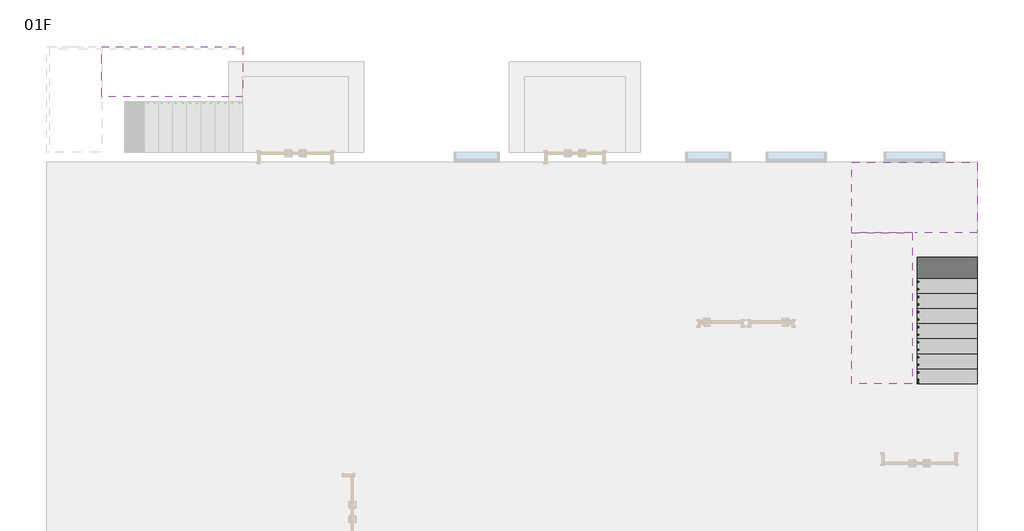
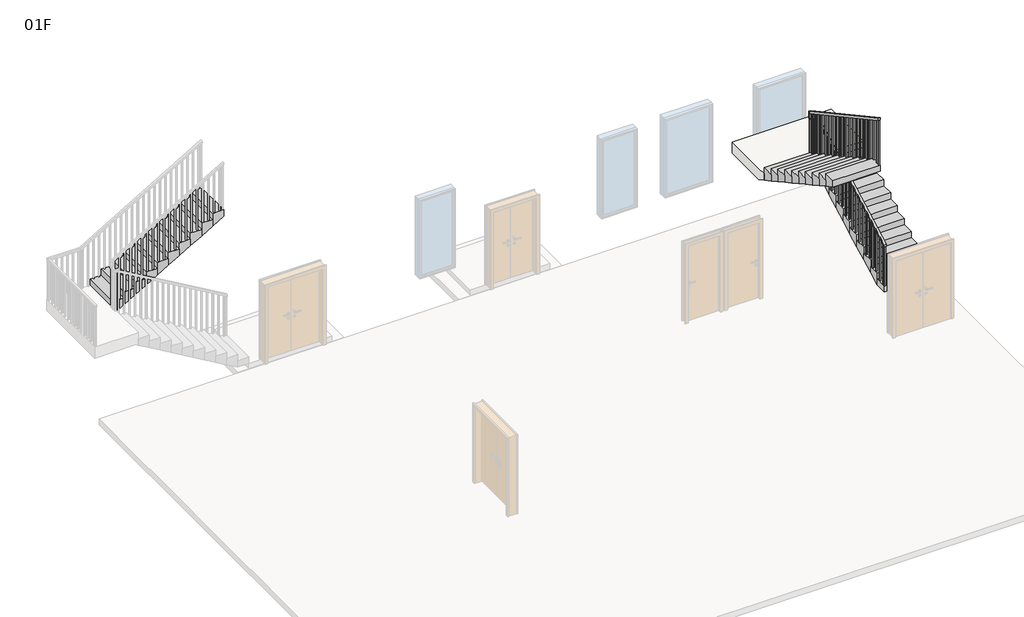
# One storey, part 2 of 2: 3 stair flights, 1 railing, 1 slab.
"""IFC4 building model written with IfcOpenShell, lengths in millimetres."""

from ifc_helpers import new_model, si_unit, frame, origin, place, context, project, spatial, polyline, outline, extrude, faceted_brep, element, save

model = new_model("IFC4")

# Units and contexts
model_context = context("Model", 3, world=origin())
ifc_project = project(units=[si_unit("LENGTHUNIT", "METRE", prefix="MILLI")], contexts=[model_context])

# Site, building, storey
site = spatial("IfcSite", under=ifc_project)
building = spatial("IfcBuilding", under=site)
storey = spatial("IfcBuildingStorey", under=building, Name="01F", Elevation=0.0)

# Railing
placement = place(None, origin())
element("IfcRailing", 1, ObjectType="1100mm", at=placement, inside=storey, context=model_context, shape_type="SolidModel", body=[
    faceted_brep([(17300.4, 9000.0, 1263.6363636), (17300.4, 9000.0, 1206.6819814), (17350.4, 9000.0, 1206.6819814), (17350.4, 9000.0, 1263.6363636), (17300.4, 11925.4, 2859.3090909), (17300.4, 11975.4, 2829.627436), (17350.4, 11975.4, 2829.627436), (17350.4, 11925.4, 2859.3090909), (17300.4, 11925.4, 2900.0), (17300.4, 11975.4, 2850.0), (17350.4, 11975.4, 2850.0), (17350.4, 11925.4, 2900.0), (17300.4, 12000.4, 2900.0), (17300.4, 12000.4, 2850.0), (17350.4, 12050.4, 2850.0), (17350.4, 12050.4, 2900.0), (17225.4, 12000.4, 2900.0), (17225.4, 12000.4, 2850.0), (17225.4, 12050.4, 2850.0), (17225.4, 12050.4, 2900.0), (17199.6, 12000.4, 2900.0), (17199.6, 12050.4, 2900.0), (17149.6, 12050.4, 2850.0), (17149.6, 12000.4, 2850.0)], [[[0, 1, 2, 3]], [[1, 0, 4, 5]], [[2, 1, 5, 6]], [[3, 2, 6, 7]], [[0, 3, 7, 4]], [[5, 4, 8, 9]], [[6, 5, 9, 10]], [[7, 6, 10, 11]], [[4, 7, 11, 8]], [[9, 8, 12, 13]], [[10, 9, 13, 14]], [[11, 10, 14, 15]], [[8, 11, 15, 12]], [[13, 12, 16, 17]], [[14, 13, 17, 18]], [[15, 14, 18, 19]], [[12, 15, 19, 16]], [[20, 21, 22, 23]], [[17, 16, 20, 23]], [[18, 17, 23, 22]], [[19, 18, 22, 21]], [[16, 19, 21, 20]]]),
    faceted_brep([(17199.6, 12000.4, 2900.0), (17149.6, 12000.4, 2850.0), (17149.6, 12050.4, 2850.0), (17199.6, 12050.4, 2900.0), (17199.6, 12000.4, 3006.4637996), (17199.6, 12050.4, 3036.1454545), (17149.6, 12050.4, 3036.1454545), (17149.6, 12000.4, 3006.4637996)], [[[0, 1, 2, 3]], [[4, 5, 6, 7]], [[1, 0, 4, 7]], [[2, 1, 7, 6]], [[3, 2, 6, 5]], [[0, 3, 5, 4]]]),
    faceted_brep([(17199.6, 12050.4, 3036.1454545), (17199.6, 12000.4, 3006.4637996), (17149.6, 12000.4, 3006.4637996), (17149.6, 12050.4, 3036.1454545), (17199.6, 9000.0, 4700.0), (17149.6, 9000.0, 4700.0), (17149.6, 9000.0, 4643.0456178), (17199.6, 9000.0, 4643.0456178)], [[[0, 1, 2, 3]], [[4, 5, 6, 7]], [[1, 0, 4, 7]], [[2, 1, 7, 6]], [[3, 2, 6, 5]], [[0, 3, 5, 4]]]),
    extrude(outline(polyline([(9112.9, 3436.3636364), (9087.9, 3436.3636364), (9087.9, 4595.1001632), (9112.9, 4581.4637996), (9112.9, 3436.3636364)])), frame((17162.1, 0.0, 0.0), z_axis=(1.0, 0.0, 0.0), x_axis=(0.0, 1.0, 0.0)), (0.0, 0.0, 1.0), 25.0),
    extrude(outline(polyline([(9262.9, 3436.3636364), (9237.9, 3436.3636364), (9237.9, 4513.2819814), (9262.9, 4499.6456178), (9262.9, 3436.3636364)])), frame((17162.1, 0.0, 0.0), z_axis=(1.0, 0.0, 0.0), x_axis=(0.0, 1.0, 0.0)), (0.0, 0.0, 1.0), 25.0),
    extrude(outline(polyline([(9412.9, 3272.7272727), (9387.9, 3272.7272727), (9387.9, 4431.4637996), (9412.9, 4417.827436), (9412.9, 3272.7272727)])), frame((17162.1, 0.0, 0.0), z_axis=(1.0, 0.0, 0.0), x_axis=(0.0, 1.0, 0.0)), (0.0, 0.0, 1.0), 25.0),
    extrude(outline(polyline([(9562.9, 3272.7272727), (9537.9, 3272.7272727), (9537.9, 4349.6456178), (9562.9, 4336.0092542), (9562.9, 3272.7272727)])), frame((17162.1, 0.0, 0.0), z_axis=(1.0, 0.0, 0.0), x_axis=(0.0, 1.0, 0.0)), (0.0, 0.0, 1.0), 25.0),
    extrude(outline(polyline([(9712.9, 3109.0909091), (9687.9, 3109.0909091), (9687.9, 4267.827436), (9712.9, 4254.1910723), (9712.9, 3109.0909091)])), frame((17162.1, 0.0, 0.0), z_axis=(1.0, 0.0, 0.0), x_axis=(0.0, 1.0, 0.0)), (0.0, 0.0, 1.0), 25.0),
    extrude(outline(polyline([(9862.9, 3109.0909091), (9837.9, 3109.0909091), (9837.9, 4186.0092542), (9862.9, 4172.3728905), (9862.9, 3109.0909091)])), frame((17162.1, 0.0, 0.0), z_axis=(1.0, 0.0, 0.0), x_axis=(0.0, 1.0, 0.0)), (0.0, 0.0, 1.0), 25.0),
    extrude(outline(polyline([(10012.9, 2945.4545455), (9987.9, 2945.4545455), (9987.9, 4104.1910723), (10012.9, 4090.5547087), (10012.9, 2945.4545455)])), frame((17162.1, 0.0, 0.0), z_axis=(1.0, 0.0, 0.0), x_axis=(0.0, 1.0, 0.0)), (0.0, 0.0, 1.0), 25.0),
    extrude(outline(polyline([(10162.9, 2945.4545455), (10137.9, 2945.4545455), (10137.9, 4022.3728905), (10162.9, 4008.7365269), (10162.9, 2945.4545455)])), frame((17162.1, 0.0, 0.0), z_axis=(1.0, 0.0, 0.0), x_axis=(0.0, 1.0, 0.0)), (0.0, 0.0, 1.0), 25.0),
    extrude(outline(polyline([(10312.9, 2781.8181818), (10287.9, 2781.8181818), (10287.9, 3940.5547087), (10312.9, 3926.9183451), (10312.9, 2781.8181818)])), frame((17162.1, 0.0, 0.0), z_axis=(1.0, 0.0, 0.0), x_axis=(0.0, 1.0, 0.0)), (0.0, 0.0, 1.0), 25.0),
    extrude(outline(polyline([(10462.9, 2781.8181818), (10437.9, 2781.8181818), (10437.9, 3858.7365269), (10462.9, 3845.1001632), (10462.9, 2781.8181818)])), frame((17162.1, 0.0, 0.0), z_axis=(1.0, 0.0, 0.0), x_axis=(0.0, 1.0, 0.0)), (0.0, 0.0, 1.0), 25.0),
    extrude(outline(polyline([(10612.9, 2618.1818182), (10587.9, 2618.1818182), (10587.9, 3776.9183451), (10612.9, 3763.2819814), (10612.9, 2618.1818182)])), frame((17162.1, 0.0, 0.0), z_axis=(1.0, 0.0, 0.0), x_axis=(0.0, 1.0, 0.0)), (0.0, 0.0, 1.0), 25.0),
    extrude(outline(polyline([(10762.9, 2618.1818182), (10737.9, 2618.1818182), (10737.9, 3695.1001632), (10762.9, 3681.4637996), (10762.9, 2618.1818182)])), frame((17162.1, 0.0, 0.0), z_axis=(1.0, 0.0, 0.0), x_axis=(0.0, 1.0, 0.0)), (0.0, 0.0, 1.0), 25.0),
    extrude(outline(polyline([(10912.9, 2454.5454545), (10887.9, 2454.5454545), (10887.9, 3613.2819814), (10912.9, 3599.6456178), (10912.9, 2454.5454545)])), frame((17162.1, 0.0, 0.0), z_axis=(1.0, 0.0, 0.0), x_axis=(0.0, 1.0, 0.0)), (0.0, 0.0, 1.0), 25.0),
    extrude(outline(polyline([(11062.9, 2454.5454545), (11037.9, 2454.5454545), (11037.9, 3531.4637996), (11062.9, 3517.827436), (11062.9, 2454.5454545)])), frame((17162.1, 0.0, 0.0), z_axis=(1.0, 0.0, 0.0), x_axis=(0.0, 1.0, 0.0)), (0.0, 0.0, 1.0), 25.0),
    extrude(outline(polyline([(11212.9, 2290.9090909), (11187.9, 2290.9090909), (11187.9, 3449.6456178), (11212.9, 3436.0092542), (11212.9, 2290.9090909)])), frame((17162.1, 0.0, 0.0), z_axis=(1.0, 0.0, 0.0), x_axis=(0.0, 1.0, 0.0)), (0.0, 0.0, 1.0), 25.0),
    extrude(outline(polyline([(11362.9, 2290.9090909), (11337.9, 2290.9090909), (11337.9, 3367.827436), (11362.9, 3354.1910723), (11362.9, 2290.9090909)])), frame((17162.1, 0.0, 0.0), z_axis=(1.0, 0.0, 0.0), x_axis=(0.0, 1.0, 0.0)), (0.0, 0.0, 1.0), 25.0),
    extrude(outline(polyline([(11512.9, 2127.2727273), (11487.9, 2127.2727273), (11487.9, 3286.0092542), (11512.9, 3272.3728905), (11512.9, 2127.2727273)])), frame((17162.1, 0.0, 0.0), z_axis=(1.0, 0.0, 0.0), x_axis=(0.0, 1.0, 0.0)), (0.0, 0.0, 1.0), 25.0),
    extrude(outline(polyline([(11662.9, 2127.2727273), (11637.9, 2127.2727273), (11637.9, 3204.1910723), (11662.9, 3190.5547087), (11662.9, 2127.2727273)])), frame((17162.1, 0.0, 0.0), z_axis=(1.0, 0.0, 0.0), x_axis=(0.0, 1.0, 0.0)), (0.0, 0.0, 1.0), 25.0),
    extrude(outline(polyline([(11812.9, 1963.6363636), (11787.9, 1963.6363636), (11787.9, 3122.3728905), (11812.9, 3108.7365269), (11812.9, 1963.6363636)])), frame((17162.1, 0.0, 0.0), z_axis=(1.0, 0.0, 0.0), x_axis=(0.0, 1.0, 0.0)), (0.0, 0.0, 1.0), 25.0),
    extrude(outline(polyline([(11962.9, 1963.6363636), (11937.9, 1963.6363636), (11937.9, 3040.5547087), (11962.9, 3026.9183451), (11962.9, 1963.6363636)])), frame((17162.1, 0.0, 0.0), z_axis=(1.0, 0.0, 0.0), x_axis=(0.0, 1.0, 0.0)), (0.0, 0.0, 1.0), 25.0),
    extrude(outline(polyline([(17262.9, 12012.9), (17237.9, 12012.9), (17237.9, 12037.9), (17262.9, 12037.9), (17262.9, 12012.9)])), frame((0.0, 0.0, 1800.0), z_axis=(0.0, 0.0, 1.0), x_axis=(1.0, 0.0, 0.0)), (0.0, 0.0, 1.0), 1050.0),
    extrude(outline(polyline([(11912.5, 2795.3183451), (11937.5, 2808.9547087), (11937.5, 1636.3636364), (11912.5, 1636.3636364), (11912.5, 2795.3183451)])), frame((17312.9, 0.0, 0.0), z_axis=(1.0, 0.0, 0.0), x_axis=(0.0, 1.0, 0.0)), (0.0, 0.0, 1.0), 25.0),
    extrude(outline(polyline([(11762.5, 2713.5001632), (11787.5, 2727.1365269), (11787.5, 1636.3636364), (11762.5, 1636.3636364), (11762.5, 2713.5001632)])), frame((17312.9, 0.0, 0.0), z_axis=(1.0, 0.0, 0.0), x_axis=(0.0, 1.0, 0.0)), (0.0, 0.0, 1.0), 25.0),
    extrude(outline(polyline([(11612.5, 2631.6819814), (11637.5, 2645.3183451), (11637.5, 1472.7272727), (11612.5, 1472.7272727), (11612.5, 2631.6819814)])), frame((17312.9, 0.0, 0.0), z_axis=(1.0, 0.0, 0.0), x_axis=(0.0, 1.0, 0.0)), (0.0, 0.0, 1.0), 25.0),
    extrude(outline(polyline([(11462.5, 2549.8637996), (11487.5, 2563.5001632), (11487.5, 1472.7272727), (11462.5, 1472.7272727), (11462.5, 2549.8637996)])), frame((17312.9, 0.0, 0.0), z_axis=(1.0, 0.0, 0.0), x_axis=(0.0, 1.0, 0.0)), (0.0, 0.0, 1.0), 25.0),
    extrude(outline(polyline([(11312.5, 2468.0456178), (11337.5, 2481.6819814), (11337.5, 1309.0909091), (11312.5, 1309.0909091), (11312.5, 2468.0456178)])), frame((17312.9, 0.0, 0.0), z_axis=(1.0, 0.0, 0.0), x_axis=(0.0, 1.0, 0.0)), (0.0, 0.0, 1.0), 25.0),
    extrude(outline(polyline([(11162.5, 2386.227436), (11187.5, 2399.8637996), (11187.5, 1309.0909091), (11162.5, 1309.0909091), (11162.5, 2386.227436)])), frame((17312.9, 0.0, 0.0), z_axis=(1.0, 0.0, 0.0), x_axis=(0.0, 1.0, 0.0)), (0.0, 0.0, 1.0), 25.0),
    extrude(outline(polyline([(11012.5, 2304.4092542), (11037.5, 2318.0456178), (11037.5, 1145.4545455), (11012.5, 1145.4545455), (11012.5, 2304.4092542)])), frame((17312.9, 0.0, 0.0), z_axis=(1.0, 0.0, 0.0), x_axis=(0.0, 1.0, 0.0)), (0.0, 0.0, 1.0), 25.0),
    extrude(outline(polyline([(10862.5, 2222.5910723), (10887.5, 2236.227436), (10887.5, 1145.4545455), (10862.5, 1145.4545455), (10862.5, 2222.5910723)])), frame((17312.9, 0.0, 0.0), z_axis=(1.0, 0.0, 0.0), x_axis=(0.0, 1.0, 0.0)), (0.0, 0.0, 1.0), 25.0),
    extrude(outline(polyline([(10712.5, 2140.7728905), (10737.5, 2154.4092542), (10737.5, 981.8181818), (10712.5, 981.8181818), (10712.5, 2140.7728905)])), frame((17312.9, 0.0, 0.0), z_axis=(1.0, 0.0, 0.0), x_axis=(0.0, 1.0, 0.0)), (0.0, 0.0, 1.0), 25.0),
    extrude(outline(polyline([(10562.5, 2058.9547087), (10587.5, 2072.5910723), (10587.5, 981.8181818), (10562.5, 981.8181818), (10562.5, 2058.9547087)])), frame((17312.9, 0.0, 0.0), z_axis=(1.0, 0.0, 0.0), x_axis=(0.0, 1.0, 0.0)), (0.0, 0.0, 1.0), 25.0),
    extrude(outline(polyline([(10412.5, 1977.1365269), (10437.5, 1990.7728905), (10437.5, 818.1818182), (10412.5, 818.1818182), (10412.5, 1977.1365269)])), frame((17312.9, 0.0, 0.0), z_axis=(1.0, 0.0, 0.0), x_axis=(0.0, 1.0, 0.0)), (0.0, 0.0, 1.0), 25.0),
    extrude(outline(polyline([(10262.5, 1895.3183451), (10287.5, 1908.9547087), (10287.5, 818.1818182), (10262.5, 818.1818182), (10262.5, 1895.3183451)])), frame((17312.9, 0.0, 0.0), z_axis=(1.0, 0.0, 0.0), x_axis=(0.0, 1.0, 0.0)), (0.0, 0.0, 1.0), 25.0),
    extrude(outline(polyline([(10112.5, 1813.5001632), (10137.5, 1827.1365269), (10137.5, 654.5454545), (10112.5, 654.5454545), (10112.5, 1813.5001632)])), frame((17312.9, 0.0, 0.0), z_axis=(1.0, 0.0, 0.0), x_axis=(0.0, 1.0, 0.0)), (0.0, 0.0, 1.0), 25.0),
    extrude(outline(polyline([(9962.5, 1731.6819814), (9987.5, 1745.3183451), (9987.5, 654.5454545), (9962.5, 654.5454545), (9962.5, 1731.6819814)])), frame((17312.9, 0.0, 0.0), z_axis=(1.0, 0.0, 0.0), x_axis=(0.0, 1.0, 0.0)), (0.0, 0.0, 1.0), 25.0),
    extrude(outline(polyline([(9812.5, 1649.8637996), (9837.5, 1663.5001632), (9837.5, 490.9090909), (9812.5, 490.9090909), (9812.5, 1649.8637996)])), frame((17312.9, 0.0, 0.0), z_axis=(1.0, 0.0, 0.0), x_axis=(0.0, 1.0, 0.0)), (0.0, 0.0, 1.0), 25.0),
    extrude(outline(polyline([(9662.5, 1568.0456178), (9687.5, 1581.6819814), (9687.5, 490.9090909), (9662.5, 490.9090909), (9662.5, 1568.0456178)])), frame((17312.9, 0.0, 0.0), z_axis=(1.0, 0.0, 0.0), x_axis=(0.0, 1.0, 0.0)), (0.0, 0.0, 1.0), 25.0),
    extrude(outline(polyline([(9512.5, 1486.227436), (9537.5, 1499.8637996), (9537.5, 327.2727273), (9512.5, 327.2727273), (9512.5, 1486.227436)])), frame((17312.9, 0.0, 0.0), z_axis=(1.0, 0.0, 0.0), x_axis=(0.0, 1.0, 0.0)), (0.0, 0.0, 1.0), 25.0),
    extrude(outline(polyline([(9362.5, 1404.4092542), (9387.5, 1418.0456178), (9387.5, 327.2727273), (9362.5, 327.2727273), (9362.5, 1404.4092542)])), frame((17312.9, 0.0, 0.0), z_axis=(1.0, 0.0, 0.0), x_axis=(0.0, 1.0, 0.0)), (0.0, 0.0, 1.0), 25.0),
    extrude(outline(polyline([(9212.5, 1322.5910723), (9237.5, 1336.227436), (9237.5, 163.6363636), (9212.5, 163.6363636), (9212.5, 1322.5910723)])), frame((17312.9, 0.0, 0.0), z_axis=(1.0, 0.0, 0.0), x_axis=(0.0, 1.0, 0.0)), (0.0, 0.0, 1.0), 25.0),
    extrude(outline(polyline([(9062.5, 1240.7728905), (9087.5, 1254.4092542), (9087.5, 163.6363636), (9062.5, 163.6363636), (9062.5, 1240.7728905)])), frame((17312.9, 0.0, 0.0), z_axis=(1.0, 0.0, 0.0), x_axis=(0.0, 1.0, 0.0)), (0.0, 0.0, 1.0), 25.0),
    extrude(outline(polyline([(17187.1, 12037.9), (17187.1, 12012.9), (17162.1, 12012.9), (17162.1, 12037.9), (17187.1, 12037.9)])), frame((0.0, 0.0, 1800.0), z_axis=(0.0, 0.0, 1.0), x_axis=(1.0, 0.0, 0.0)), (0.0, 0.0, 1.0), 1050.0),
    extrude(outline(polyline([(17312.9, 12012.9), (17312.9, 12037.9), (17337.9, 12037.9), (17337.9, 12012.9), (17312.9, 12012.9)])), frame((0.0, 0.0, 1800.0), z_axis=(0.0, 0.0, 1.0), x_axis=(1.0, 0.0, 0.0)), (0.0, 0.0, 1.0), 1050.0),
    extrude(outline(polyline([(17312.9, 11987.5), (17312.9, 12012.5), (17337.9, 12012.5), (17337.9, 11987.5), (17312.9, 11987.5)])), frame((0.0, 0.0, 1800.0), z_axis=(0.0, 0.0, 1.0), x_axis=(1.0, 0.0, 0.0)), (0.0, 0.0, 1.0), 1050.0),
    extrude(outline(polyline([(9025.0, 3436.3636364), (9000.0, 3436.3636364), (9000.0, 4643.0456178), (9025.0, 4629.4092542), (9025.0, 3436.3636364)])), frame((17162.1, 0.0, 0.0), z_axis=(1.0, 0.0, 0.0), x_axis=(0.0, 1.0, 0.0)), (0.0, 0.0, 1.0), 25.0),
    extrude(outline(polyline([(9000.0, 1206.6819814), (9025.0, 1220.3183451), (9025.0, 163.6363636), (9000.0, 163.6363636), (9000.0, 1206.6819814)])), frame((17312.9, 0.0, 0.0), z_axis=(1.0, 0.0, 0.0), x_axis=(0.0, 1.0, 0.0)), (0.0, 0.0, 1.0), 25.0),
])

# Slab
element("IfcSlab", 2, ObjectType="300mm 厚度", at=placement, inside=storey, context=model_context, shape_type="Brep", body=[
    faceted_brep([(17300.0, 12000.0, 1800.0), (18500.0, 12000.0, 1800.0), (18500.0, 12063.2491022, 1800.0), (18500.0, 13400.0, 1800.0), (16000.0, 13400.0, 1800.0), (16000.0, 12236.7508978, 1800.0), (16000.0, 12000.0, 1800.0), (17200.0, 12000.0, 1800.0), (17300.0, 12000.0, 1500.0), (17300.0, 12000.0, 1465.5004897), (18500.0, 12000.0, 1465.5004897), (18500.0, 12000.0, 1636.3636364), (18500.0, 12063.2491022, 1500.0), (18500.0, 13400.0, 1500.0), (16000.0, 13400.0, 1500.0), (16000.0, 12236.7508978, 1500.0), (16000.0, 12000.0, 1629.1368534), (17200.0, 12000.0, 1629.1368534), (17200.0, 12000.0, 1500.0), (17200.0, 12236.7508978, 1500.0), (17300.0, 12063.2491022, 1500.0)], [[[0, 1, 2, 3, 4, 5, 6, 7]], [[1, 0, 8, 9, 10, 11]], [[1, 11, 10, 12, 13, 3, 2]], [[4, 3, 13, 14]], [[4, 14, 15, 16, 6, 5]], [[7, 6, 16, 17]], [[0, 7, 17, 18, 8]], [[18, 19, 15, 14, 13, 12, 20, 8]], [[19, 18, 17]], [[20, 12, 10, 9]], [[8, 20, 9]], [[15, 19, 17, 16]]]),
])

# Stair flights
element("IfcStairFlight", 3, ObjectType="150mm 结构深度", at=placement, inside=storey, context=model_context, shape_type="Brep", body=[
    faceted_brep([(17300.0, 9300.0, 163.6363636), (17300.0, 9000.0, 163.6363636), (18500.0, 9000.0, 163.6363636), (18500.0, 9300.0, 163.6363636), (17300.0, 9300.0, 0.0), (17300.0, 9000.0, 0.0), (18500.0, 9000.0, 0.0), (18500.0, 9300.0, 0.0), (17300.0, 9600.0, 327.2727273), (17300.0, 9300.0, 327.2727273), (18500.0, 9300.0, 327.2727273), (18500.0, 9600.0, 327.2727273), (17300.0, 9600.0, 156.4095806), (17300.0, 9313.2491022, 0.0), (18500.0, 9313.2491022, 0.0), (18500.0, 9600.0, 156.4095806), (17300.0, 9900.0, 490.9090909), (17300.0, 9600.0, 490.9090909), (18500.0, 9600.0, 490.9090909), (18500.0, 9900.0, 490.9090909), (17300.0, 9900.0, 320.0459443), (18500.0, 9900.0, 320.0459443), (17300.0, 10200.0, 654.5454545), (17300.0, 9900.0, 654.5454545), (18500.0, 9900.0, 654.5454545), (18500.0, 10200.0, 654.5454545), (17300.0, 10200.0, 483.6823079), (18500.0, 10200.0, 483.6823079), (17300.0, 10500.0, 818.1818182), (17300.0, 10200.0, 818.1818182), (18500.0, 10200.0, 818.1818182), (18500.0, 10500.0, 818.1818182), (17300.0, 10500.0, 647.3186716), (18500.0, 10500.0, 647.3186716), (17300.0, 10800.0, 981.8181818), (17300.0, 10500.0, 981.8181818), (18500.0, 10500.0, 981.8181818), (18500.0, 10800.0, 981.8181818), (17300.0, 10800.0, 810.9550352), (18500.0, 10800.0, 810.9550352), (17300.0, 11100.0, 1145.4545455), (17300.0, 10800.0, 1145.4545455), (18500.0, 10800.0, 1145.4545455), (18500.0, 11100.0, 1145.4545455), (17300.0, 11100.0, 974.5913988), (18500.0, 11100.0, 974.5913988), (17300.0, 11400.0, 1309.0909091), (17300.0, 11100.0, 1309.0909091), (18500.0, 11100.0, 1309.0909091), (18500.0, 11400.0, 1309.0909091), (17300.0, 11400.0, 1138.2277625), (18500.0, 11400.0, 1138.2277625), (17300.0, 11700.0, 1472.7272727), (17300.0, 11400.0, 1472.7272727), (18500.0, 11400.0, 1472.7272727), (18500.0, 11700.0, 1472.7272727), (17300.0, 11700.0, 1301.8641261), (18500.0, 11700.0, 1301.8641261), (17300.0, 12000.0, 1636.3636364), (17300.0, 11700.0, 1636.3636364), (18500.0, 11700.0, 1636.3636364), (18500.0, 12000.0, 1636.3636364), (17300.0, 12000.0, 1500.0), (17300.0, 12000.0, 1465.5004897), (18500.0, 12000.0, 1465.5004897)], [[[0, 1, 2, 3]], [[1, 0, 4, 5]], [[2, 1, 5, 6]], [[3, 2, 6, 7]], [[8, 9, 10, 11]], [[4, 0, 9, 8, 12, 13]], [[0, 3, 10, 9]], [[3, 7, 14, 15, 11, 10]], [[16, 17, 18, 19]], [[17, 16, 20, 12, 8]], [[8, 11, 18, 17]], [[19, 18, 11, 15, 21]], [[22, 23, 24, 25]], [[23, 22, 26, 20, 16]], [[16, 19, 24, 23]], [[25, 24, 19, 21, 27]], [[28, 29, 30, 31]], [[29, 28, 32, 26, 22]], [[22, 25, 30, 29]], [[31, 30, 25, 27, 33]], [[34, 35, 36, 37]], [[35, 34, 38, 32, 28]], [[28, 31, 36, 35]], [[37, 36, 31, 33, 39]], [[40, 41, 42, 43]], [[41, 40, 44, 38, 34]], [[34, 37, 42, 41]], [[43, 42, 37, 39, 45]], [[46, 47, 48, 49]], [[47, 46, 50, 44, 40]], [[40, 43, 48, 47]], [[49, 48, 43, 45, 51]], [[52, 53, 54, 55]], [[53, 52, 56, 50, 46]], [[46, 49, 54, 53]], [[55, 54, 49, 51, 57]], [[58, 59, 60, 61]], [[59, 58, 62, 63, 56, 52]], [[52, 55, 60, 59]], [[61, 60, 55, 57, 64]], [[58, 61, 64, 63, 62]], [[5, 4, 13, 14, 7, 6]], [[14, 13, 12, 20, 26, 32, 38, 44, 50, 56, 63, 64, 57, 51, 45, 39, 33, 27, 21, 15]]]),
])
element("IfcStairFlight", 4, ObjectType="150mm 结构深度", at=placement, inside=storey, context=model_context, shape_type="Brep", body=[
    faceted_brep([(17200.0, 11700.0, 1963.6363636), (17200.0, 12000.0, 1963.6363636), (16000.0, 12000.0, 1963.6363636), (16000.0, 11700.0, 1963.6363636), (17200.0, 11700.0, 1792.773217), (17200.0, 12000.0, 1629.1368534), (16000.0, 12000.0, 1629.1368534), (16000.0, 12000.0, 1800.0), (16000.0, 11700.0, 1792.773217), (17200.0, 11400.0, 2127.2727273), (17200.0, 11700.0, 2127.2727273), (16000.0, 11700.0, 2127.2727273), (16000.0, 11400.0, 2127.2727273), (17200.0, 11400.0, 1956.4095806), (16000.0, 11400.0, 1956.4095806), (17200.0, 11100.0, 2290.9090909), (17200.0, 11400.0, 2290.9090909), (16000.0, 11400.0, 2290.9090909), (16000.0, 11100.0, 2290.9090909), (17200.0, 11100.0, 2120.0459443), (16000.0, 11100.0, 2120.0459443), (17200.0, 10800.0, 2454.5454545), (17200.0, 11100.0, 2454.5454545), (16000.0, 11100.0, 2454.5454545), (16000.0, 10800.0, 2454.5454545), (17200.0, 10800.0, 2283.6823079), (16000.0, 10800.0, 2283.6823079), (17200.0, 10500.0, 2618.1818182), (17200.0, 10800.0, 2618.1818182), (16000.0, 10800.0, 2618.1818182), (16000.0, 10500.0, 2618.1818182), (17200.0, 10500.0, 2447.3186716), (16000.0, 10500.0, 2447.3186716), (17200.0, 10200.0, 2781.8181818), (17200.0, 10500.0, 2781.8181818), (16000.0, 10500.0, 2781.8181818), (16000.0, 10200.0, 2781.8181818), (17200.0, 10200.0, 2610.9550352), (16000.0, 10200.0, 2610.9550352), (17200.0, 9900.0, 2945.4545455), (17200.0, 10200.0, 2945.4545455), (16000.0, 10200.0, 2945.4545455), (16000.0, 9900.0, 2945.4545455), (17200.0, 9900.0, 2774.5913988), (16000.0, 9900.0, 2774.5913988), (17200.0, 9600.0, 3109.0909091), (17200.0, 9900.0, 3109.0909091), (16000.0, 9900.0, 3109.0909091), (16000.0, 9600.0, 3109.0909091), (17200.0, 9600.0, 2938.2277625), (16000.0, 9600.0, 2938.2277625), (17200.0, 9300.0, 3272.7272727), (17200.0, 9600.0, 3272.7272727), (16000.0, 9600.0, 3272.7272727), (16000.0, 9300.0, 3272.7272727), (17200.0, 9300.0, 3101.8641261), (16000.0, 9300.0, 3101.8641261), (17200.0, 9000.0, 3436.3636364), (17200.0, 9300.0, 3436.3636364), (16000.0, 9300.0, 3436.3636364), (16000.0, 9000.0, 3436.3636364), (17200.0, 9000.0, 3265.5004897), (16000.0, 9000.0, 3265.5004897)], [[[0, 1, 2, 3]], [[1, 0, 4, 5]], [[2, 1, 5, 6, 7]], [[3, 2, 7, 6, 8]], [[9, 10, 11, 12]], [[10, 9, 13, 4, 0]], [[11, 10, 0, 3]], [[12, 11, 3, 8, 14]], [[15, 16, 17, 18]], [[16, 15, 19, 13, 9]], [[17, 16, 9, 12]], [[18, 17, 12, 14, 20]], [[21, 22, 23, 24]], [[22, 21, 25, 19, 15]], [[23, 22, 15, 18]], [[24, 23, 18, 20, 26]], [[27, 28, 29, 30]], [[28, 27, 31, 25, 21]], [[29, 28, 21, 24]], [[30, 29, 24, 26, 32]], [[33, 34, 35, 36]], [[34, 33, 37, 31, 27]], [[35, 34, 27, 30]], [[36, 35, 30, 32, 38]], [[39, 40, 41, 42]], [[40, 39, 43, 37, 33]], [[41, 40, 33, 36]], [[42, 41, 36, 38, 44]], [[45, 46, 47, 48]], [[46, 45, 49, 43, 39]], [[47, 46, 39, 42]], [[48, 47, 42, 44, 50]], [[51, 52, 53, 54]], [[52, 51, 55, 49, 45]], [[53, 52, 45, 48]], [[54, 53, 48, 50, 56]], [[57, 58, 59, 60]], [[58, 57, 61, 55, 51]], [[59, 58, 51, 54]], [[60, 59, 54, 56, 62]], [[57, 60, 62, 61]], [[5, 4, 13, 19, 25, 31, 37, 43, 49, 55, 61, 62, 56, 50, 44, 38, 32, 26, 20, 14, 8, 6]]]),
])
element("IfcStairFlight", 5, ObjectType="150mm 结构深度", at=placement, inside=storey, context=model_context, shape_type="Brep", body=[
    faceted_brep([(1380.0, 15700.0, 1963.6363636), (1100.0, 15700.0, 1963.6363636), (1100.0, 14700.0, 1963.6363636), (1380.0, 14700.0, 1963.6363636), (1380.0, 15700.0, 1789.8989599), (1100.0, 15700.0, 1626.2625963), (1100.0, 15700.0, 1800.0), (1100.0, 14700.0, 1626.2625963), (1380.0, 14700.0, 1789.8989599), (1660.0, 15700.0, 2127.2727273), (1380.0, 15700.0, 2127.2727273), (1380.0, 14700.0, 2127.2727273), (1660.0, 14700.0, 2127.2727273), (1660.0, 15700.0, 1953.5353236), (1660.0, 14700.0, 1953.5353236), (1940.0, 15700.0, 2290.9090909), (1660.0, 15700.0, 2290.9090909), (1660.0, 14700.0, 2290.9090909), (1940.0, 14700.0, 2290.9090909), (1940.0, 15700.0, 2117.1716872), (1940.0, 14700.0, 2117.1716872), (2220.0, 15700.0, 2454.5454545), (1940.0, 15700.0, 2454.5454545), (1940.0, 14700.0, 2454.5454545), (2220.0, 14700.0, 2454.5454545), (2220.0, 15700.0, 2280.8080508), (2220.0, 14700.0, 2280.8080508), (2500.0, 15700.0, 2618.1818182), (2220.0, 15700.0, 2618.1818182), (2220.0, 14700.0, 2618.1818182), (2500.0, 14700.0, 2618.1818182), (2500.0, 15700.0, 2444.4444145), (2500.0, 14700.0, 2444.4444145), (2780.0, 15700.0, 2781.8181818), (2500.0, 15700.0, 2781.8181818), (2500.0, 14700.0, 2781.8181818), (2780.0, 14700.0, 2781.8181818), (2780.0, 15700.0, 2608.0807781), (2780.0, 14700.0, 2608.0807781), (3060.0, 15700.0, 2945.4545455), (2780.0, 15700.0, 2945.4545455), (2780.0, 14700.0, 2945.4545455), (3060.0, 14700.0, 2945.4545455), (3060.0, 15700.0, 2771.7171418), (3060.0, 14700.0, 2771.7171418), (3340.0, 15700.0, 3109.0909091), (3060.0, 15700.0, 3109.0909091), (3060.0, 14700.0, 3109.0909091), (3340.0, 14700.0, 3109.0909091), (3340.0, 15700.0, 2935.3535054), (3340.0, 14700.0, 2935.3535054), (3620.0, 15700.0, 3272.7272727), (3340.0, 15700.0, 3272.7272727), (3340.0, 14700.0, 3272.7272727), (3620.0, 14700.0, 3272.7272727), (3620.0, 15700.0, 3098.989869), (3620.0, 14700.0, 3098.989869), (3900.0, 15700.0, 3436.3636364), (3620.0, 15700.0, 3436.3636364), (3620.0, 14700.0, 3436.3636364), (3900.0, 14700.0, 3436.3636364), (3900.0, 15700.0, 3262.6262327), (3900.0, 14700.0, 3262.6262327)], [[[0, 1, 2, 3]], [[1, 0, 4, 5, 6]], [[2, 1, 6, 5, 7]], [[3, 2, 7, 8]], [[9, 10, 11, 12]], [[10, 9, 13, 4, 0]], [[11, 10, 0, 3]], [[12, 11, 3, 8, 14]], [[15, 16, 17, 18]], [[16, 15, 19, 13, 9]], [[17, 16, 9, 12]], [[18, 17, 12, 14, 20]], [[21, 22, 23, 24]], [[22, 21, 25, 19, 15]], [[23, 22, 15, 18]], [[24, 23, 18, 20, 26]], [[27, 28, 29, 30]], [[28, 27, 31, 25, 21]], [[29, 28, 21, 24]], [[30, 29, 24, 26, 32]], [[33, 34, 35, 36]], [[34, 33, 37, 31, 27]], [[35, 34, 27, 30]], [[36, 35, 30, 32, 38]], [[39, 40, 41, 42]], [[40, 39, 43, 37, 33]], [[41, 40, 33, 36]], [[42, 41, 36, 38, 44]], [[45, 46, 47, 48]], [[46, 45, 49, 43, 39]], [[47, 46, 39, 42]], [[48, 47, 42, 44, 50]], [[51, 52, 53, 54]], [[52, 51, 55, 49, 45]], [[53, 52, 45, 48]], [[54, 53, 48, 50, 56]], [[57, 58, 59, 60]], [[58, 57, 61, 55, 51]], [[59, 58, 51, 54]], [[60, 59, 54, 56, 62]], [[57, 60, 62, 61]], [[5, 4, 13, 19, 25, 31, 37, 43, 49, 55, 61, 62, 56, 50, 44, 38, 32, 26, 20, 14, 8, 7]]]),
])

save(model, "model.ifc")
